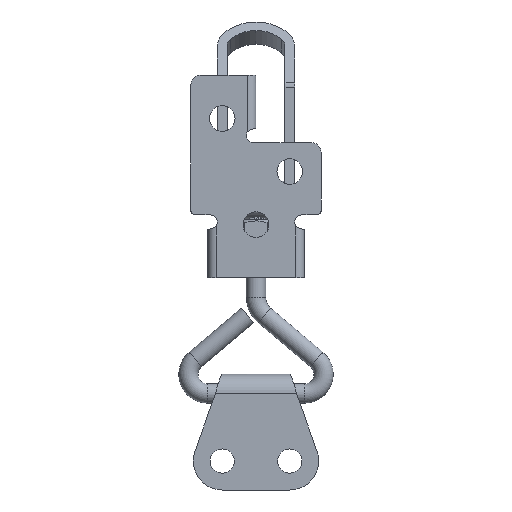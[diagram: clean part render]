
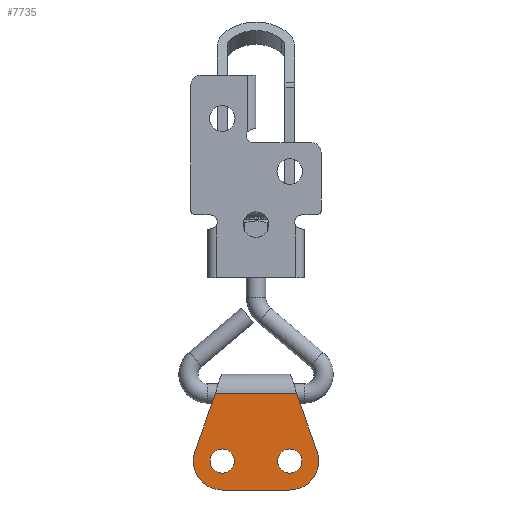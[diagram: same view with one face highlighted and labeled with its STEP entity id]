
A CAD part, front view. The second image highlights one B-rep face of the part: STEP entity #7735.
In plain terms, the highlighted planar face has unit normal (0, -1, 0).
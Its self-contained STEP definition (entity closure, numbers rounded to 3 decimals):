
#29 = DIRECTION ( 'NONE',  ( 0., 0., 1. ) ) ;
#41 = EDGE_CURVE ( 'NONE', #5072, #5484, #8449, .T. ) ;
#57 = CARTESIAN_POINT ( 'NONE',  ( -20., -4., 7. ) ) ;
#75 = EDGE_CURVE ( 'NONE', #7030, #5571, #7648, .T. ) ;
#145 = EDGE_CURVE ( 'NONE', #9062, #4206, #5523, .T. ) ;
#189 = EDGE_CURVE ( 'NONE', #7955, #9868, #4941, .T. ) ;
#330 = EDGE_CURVE ( 'NONE', #2472, #9868, #3237, .T. ) ;
#674 = EDGE_CURVE ( 'NONE', #2472, #10016, #10294, .T. ) ;
#692 = ORIENTED_EDGE ( 'NONE', *, *, #75, .T. ) ;
#696 = EDGE_CURVE ( 'NONE', #1771, #10016, #10302, .T. ) ;
#710 = DIRECTION ( 'NONE',  ( 0., 0., 1. ) ) ;
#717 = EDGE_CURVE ( 'NONE', #1771, #4206, #10051, .T. ) ;
#731 = PLANE ( 'NONE',  #11282 ) ;
#756 = CARTESIAN_POINT ( 'NONE',  ( -20., -4., 13. ) ) ;
#771 = DIRECTION ( 'NONE',  ( 0., 1., 0. ) ) ;
#822 = ORIENTED_EDGE ( 'NONE', *, *, #4155, .T. ) ;
#859 = ORIENTED_EDGE ( 'NONE', *, *, #41, .T. ) ;
#870 = ORIENTED_EDGE ( 'NONE', *, *, #4235, .T. ) ;
#1021 = ORIENTED_EDGE ( 'NONE', *, *, #674, .T. ) ;
#1135 = ORIENTED_EDGE ( 'NONE', *, *, #696, .F. ) ;
#1152 = ORIENTED_EDGE ( 'NONE', *, *, #717, .T. ) ;
#1231 = ORIENTED_EDGE ( 'NONE', *, *, #145, .F. ) ;
#1284 = ORIENTED_EDGE ( 'NONE', *, *, #4065, .F. ) ;
#1379 = ORIENTED_EDGE ( 'NONE', *, *, #189, .T. ) ;
#1390 = ORIENTED_EDGE ( 'NONE', *, *, #330, .F. ) ;
#1771 = VERTEX_POINT ( 'NONE', #9560 ) ;
#1790 = DIRECTION ( 'NONE',  ( 0., 0., 1. ) ) ;
#1841 = DIRECTION ( 'NONE',  ( 0., 1., 0. ) ) ;
#2069 = CARTESIAN_POINT ( 'NONE',  ( -14., -4., 7. ) ) ;
#2209 = CARTESIAN_POINT ( 'NONE',  ( 0., -4., -8.403 ) ) ;
#2472 = VERTEX_POINT ( 'NONE', #7651 ) ;
#2620 = CARTESIAN_POINT ( 'NONE',  ( -20., -4., -7. ) ) ;
#2923 = CARTESIAN_POINT ( 'NONE',  ( -14., -4., -7. ) ) ;
#2925 = DIRECTION ( 'NONE',  ( 0., 1., 0. ) ) ;
#2939 = DIRECTION ( 'NONE',  ( 0., 0., 1. ) ) ;
#2971 = EDGE_LOOP ( 'NONE', ( #859, #870 ) ) ;
#3237 = CIRCLE ( 'NONE', #6873, 6. ) ;
#3282 = CARTESIAN_POINT ( 'NONE',  ( -14., -4., -4.5 ) ) ;
#4065 = EDGE_CURVE ( 'NONE', #7955, #9062, #8111, .T. ) ;
#4155 = EDGE_CURVE ( 'NONE', #5571, #7030, #8067, .T. ) ;
#4206 = VERTEX_POINT ( 'NONE', #7380 ) ;
#4235 = EDGE_CURVE ( 'NONE', #5484, #5072, #7348, .T. ) ;
#4660 = VECTOR ( 'NONE', #9782, 1000. ) ;
#4725 = CARTESIAN_POINT ( 'NONE',  ( -14., -4., 9.5 ) ) ;
#4856 = AXIS2_PLACEMENT_3D ( 'NONE', #11078, #10752, #29 ) ;
#4941 = LINE ( 'NONE', #10877, #4660 ) ;
#5072 = VERTEX_POINT ( 'NONE', #4725 ) ;
#5150 = AXIS2_PLACEMENT_3D ( 'NONE', #11324, #11409, #11486 ) ;
#5484 = VERTEX_POINT ( 'NONE', #9909 ) ;
#5523 = CIRCLE ( 'NONE', #8570, 6. ) ;
#5566 = CARTESIAN_POINT ( 'NONE',  ( -14., -4., 7. ) ) ;
#5571 = VERTEX_POINT ( 'NONE', #9474 ) ;
#5588 = AXIS2_PLACEMENT_3D ( 'NONE', #5566, #5645, #5729 ) ;
#5645 = DIRECTION ( 'NONE',  ( 0., 1., 0. ) ) ;
#5729 = DIRECTION ( 'NONE',  ( 0., 0., 1. ) ) ;
#6873 = AXIS2_PLACEMENT_3D ( 'NONE', #2923, #2925, #2939 ) ;
#7030 = VERTEX_POINT ( 'NONE', #3282 ) ;
#7348 = CIRCLE ( 'NONE', #4856, 2.5 ) ;
#7380 = CARTESIAN_POINT ( 'NONE',  ( -11.995, -4., 12.655 ) ) ;
#7648 = CIRCLE ( 'NONE', #9167, 2.5 ) ;
#7651 = CARTESIAN_POINT ( 'NONE',  ( -11.995, -4., -12.655 ) ) ;
#7681 = CARTESIAN_POINT ( 'NONE',  ( -14., -4., 13. ) ) ;
#7735 = ADVANCED_FACE ( 'NONE', ( #11151, #11059, #11174 ), #731, .F. ) ;
#7885 = CARTESIAN_POINT ( 'NONE',  ( 0., -4., 13. ) ) ;
#7955 = VERTEX_POINT ( 'NONE', #57 ) ;
#7987 = DIRECTION ( 'NONE',  ( -0.943, 0., 0.334 ) ) ;
#8024 = CARTESIAN_POINT ( 'NONE',  ( -19.215, -4., 15.214 ) ) ;
#8067 = CIRCLE ( 'NONE', #5150, 2.5 ) ;
#8111 = CIRCLE ( 'NONE', #5588, 6. ) ;
#8260 = CARTESIAN_POINT ( 'NONE',  ( -11.028, -4., -12.312 ) ) ;
#8449 = CIRCLE ( 'NONE', #9441, 2.5 ) ;
#8570 = AXIS2_PLACEMENT_3D ( 'NONE', #10975, #9746, #11049 ) ;
#8673 = DIRECTION ( 'NONE',  ( 0.943, 0., 0.334 ) ) ;
#8732 = DIRECTION ( 'NONE',  ( 0., 0., -1. ) ) ;
#8935 = EDGE_LOOP ( 'NONE', ( #692, #822 ) ) ;
#9062 = VERTEX_POINT ( 'NONE', #7681 ) ;
#9167 = AXIS2_PLACEMENT_3D ( 'NONE', #11385, #11367, #11449 ) ;
#9441 = AXIS2_PLACEMENT_3D ( 'NONE', #2069, #1841, #1790 ) ;
#9474 = CARTESIAN_POINT ( 'NONE',  ( -14., -4., -9.5 ) ) ;
#9508 = EDGE_LOOP ( 'NONE', ( #1021, #1135, #1152, #1231, #1284, #1379, #1390 ) ) ;
#9560 = CARTESIAN_POINT ( 'NONE',  ( 0., -4., 8.403 ) ) ;
#9746 = DIRECTION ( 'NONE',  ( 0., 1., 0. ) ) ;
#9782 = DIRECTION ( 'NONE',  ( 0., 0., -1. ) ) ;
#9868 = VERTEX_POINT ( 'NONE', #2620 ) ;
#9909 = CARTESIAN_POINT ( 'NONE',  ( -14., -4., 4.5 ) ) ;
#10016 = VERTEX_POINT ( 'NONE', #2209 ) ;
#10021 = VECTOR ( 'NONE', #7987, 1000. ) ;
#10051 = LINE ( 'NONE', #8024, #10021 ) ;
#10160 = VECTOR ( 'NONE', #8732, 1000. ) ;
#10294 = LINE ( 'NONE', #8260, #10422 ) ;
#10302 = LINE ( 'NONE', #7885, #10160 ) ;
#10422 = VECTOR ( 'NONE', #8673, 1000. ) ;
#10752 = DIRECTION ( 'NONE',  ( 0., 1., 0. ) ) ;
#10877 = CARTESIAN_POINT ( 'NONE',  ( -20., -4., 13. ) ) ;
#10975 = CARTESIAN_POINT ( 'NONE',  ( -14., -4., 7. ) ) ;
#11049 = DIRECTION ( 'NONE',  ( 0., 0., 1. ) ) ;
#11059 = FACE_BOUND ( 'NONE', #2971, .T. ) ;
#11078 = CARTESIAN_POINT ( 'NONE',  ( -14., -4., 7. ) ) ;
#11151 = FACE_BOUND ( 'NONE', #8935, .T. ) ;
#11174 = FACE_OUTER_BOUND ( 'NONE', #9508, .T. ) ;
#11282 = AXIS2_PLACEMENT_3D ( 'NONE', #756, #771, #710 ) ;
#11324 = CARTESIAN_POINT ( 'NONE',  ( -14., -4., -7. ) ) ;
#11367 = DIRECTION ( 'NONE',  ( 0., 1., 0. ) ) ;
#11385 = CARTESIAN_POINT ( 'NONE',  ( -14., -4., -7. ) ) ;
#11409 = DIRECTION ( 'NONE',  ( 0., 1., 0. ) ) ;
#11449 = DIRECTION ( 'NONE',  ( 0., 0., 1. ) ) ;
#11486 = DIRECTION ( 'NONE',  ( 0., 0., 1. ) ) ;
